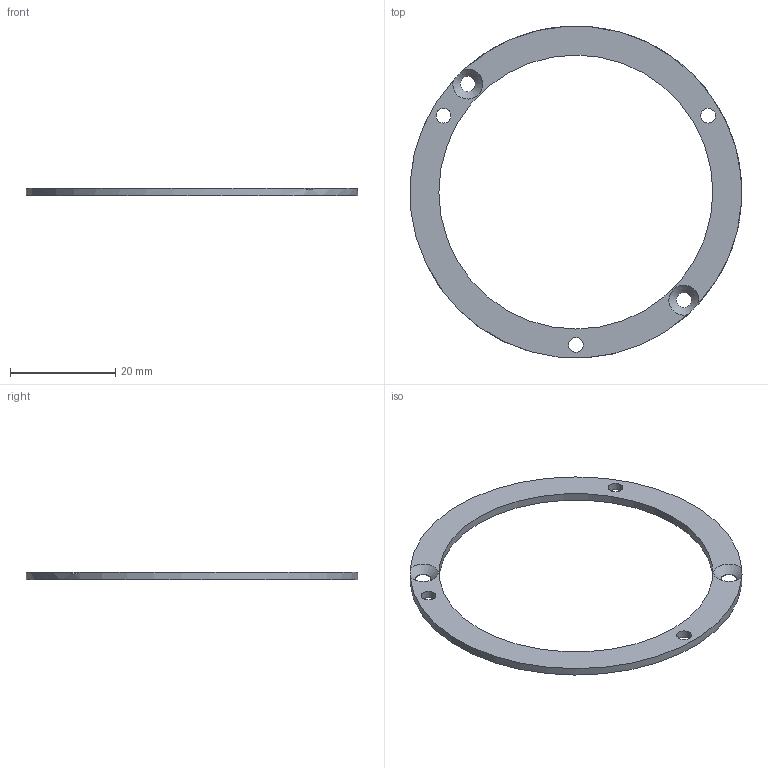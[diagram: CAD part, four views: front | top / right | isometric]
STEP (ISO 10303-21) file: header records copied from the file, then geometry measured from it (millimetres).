
FILE_DESCRIPTION(/* description */ (''),/* implementation_level */ '2;1');
FILE_NAME(/* name */ 'U:\KONSTRUKTORIAI\DOKUMENTACIJA\5\5A-VDOM-2-9.5\STEP\5A-VDOM-2-9.5.stp',/* time_stamp */ '2020-04-24T10:51:10+03:00',/* author */ ('dsgn32'),/* organization */ (''),/* preprocessor_version */ 'ST-DEVELOPER v15.2',/* originating_system */ 'Autodesk Inventor 2014',/* authorisation */ '');
FILE_SCHEMA (('CONFIG_CONTROL_DESIGN'));
Length unit declared in the file: millimetre
Products named in the file (1): 5A-VDOM-2-9.5.01
Bounding box: 62.94 x 62.95 x 1.5 mm (x, y, z)
Volume: 1419.4 mm3; surface area: 2520.8 mm2
Topology: 1 solids, 1 shells, 11 faces, 36 edges, 25 vertices
Faces by surface type: cylinder 7, cone 2, plane 2
Full cylindrical faces by diameter (mm): 2.8 x3, 2.9 x2, 52 x1, 63 x1
Entity records: 353 total; most frequent: CARTESIAN_POINT 66, DIRECTION 58, ORIENTED_EDGE 38, EDGE_LOOP 30, AXIS2_PLACEMENT_3D 29, FACE_BOUND 21, EDGE_CURVE 19, CIRCLE 17
